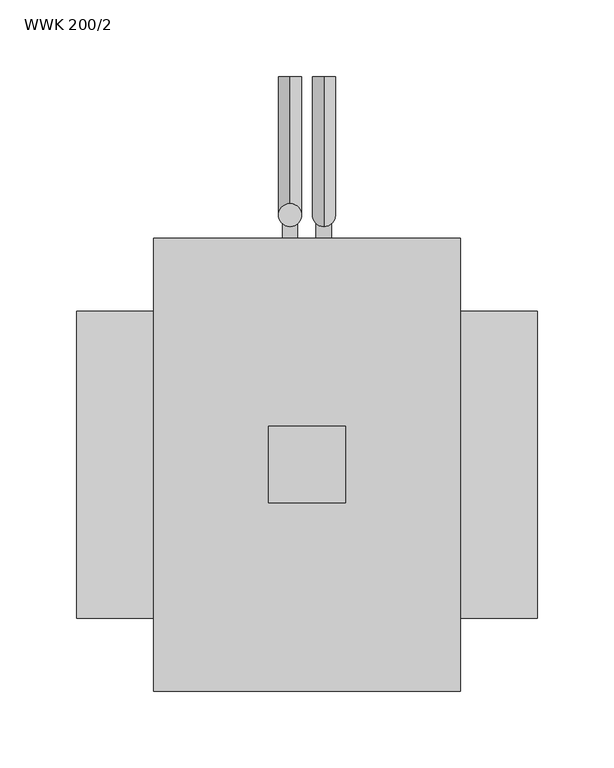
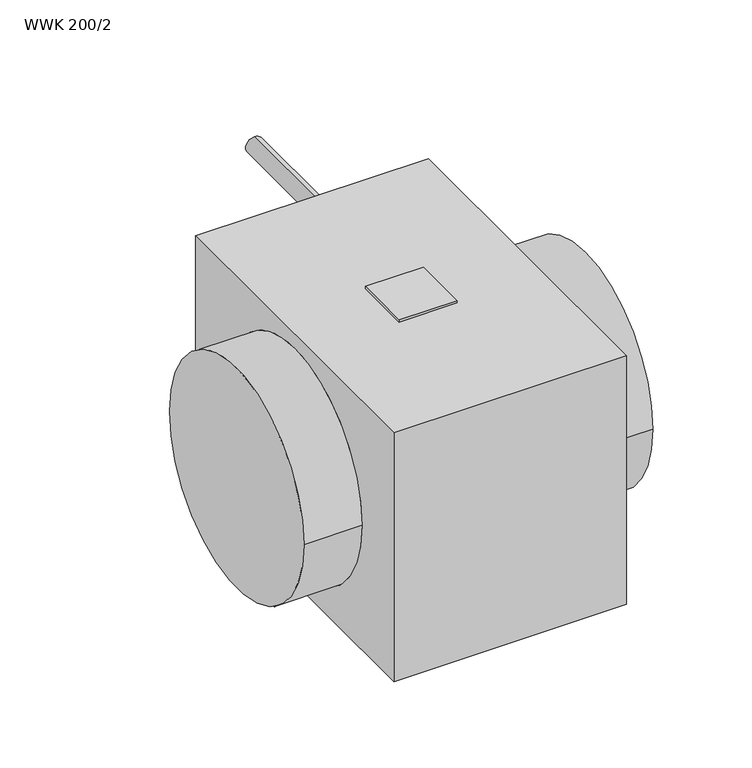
"""IFC4 building model written with IfcOpenShell, lengths in millimetres: proxy geometry, KORF_Нагреватель_Водяной_Круглый_WWK : WWK 200/2."""

import ifcopenshell
import ifcopenshell.guid

model = None  # the IFC model being written
_history = None  # IfcOwnerHistory: only IFC2X3 demands one
_inside = {}  # id of a spatial element -> (the spatial element, [elements in it])
_under = {}  # id of a project, library or spatial element -> (it, [spatial elements below it])
_declared = {}  # id of a project -> (the project, [libraries it declares])
_typed = {}  # id of a type object -> (the type object, [elements of that type])
_made_of = {}  # id of a material, layer set ... -> (it, [elements and type objects made of it])


def new_model(schema):
    """Start an empty IFC model of exactly this schema.

    Asked for "IFC4X3", IfcOpenShell would pick the latest addendum, in which some entities
    have other attributes; the version numbers below select the first issue.
    IFC2X3 requires an IfcOwnerHistory on every rooted entity: one is made here for all.
    """
    global model, _history
    if schema == "IFC4X3":
        model = ifcopenshell.file(schema_version=(4, 3, 0, 0))
    else:
        model = ifcopenshell.file(schema=schema)
    _inside.clear()
    _under.clear()
    _declared.clear()
    _typed.clear()
    _made_of.clear()
    _history = None
    if model.schema == "IFC2X3":
        org = make("IfcOrganization", Name="unknown")
        user = make(
            "IfcPersonAndOrganization",
            ThePerson=make("IfcPerson", FamilyName="unknown"),
            TheOrganization=org,
        )
        app = make(
            "IfcApplication",
            ApplicationDeveloper=org,
            Version="unknown",
            ApplicationFullName="unknown",
            ApplicationIdentifier="unknown",
        )
        _history = make(
            "IfcOwnerHistory",
            OwningUser=user,
            OwningApplication=app,
            ChangeAction="ADDED",
            CreationDate=0,
        )
    return model


def make(cls, **values):
    """One entity of the class cls with the attributes given. An attribute that is None is left unset."""
    return model.create_entity(
        cls, **{name: value for name, value in values.items() if value is not None}
    )


def rooted(cls, **values):
    """An entity with a GlobalId (a new one), such as an element, a storey or a relation."""
    return make(cls, GlobalId=ifcopenshell.guid.new(), OwnerHistory=_history, **values)


def si_unit(unit_type, name, prefix=None):
    """IfcSIUnit, for example si_unit("LENGTHUNIT", "METRE", prefix="MILLI")."""
    return make("IfcSIUnit", UnitType=unit_type, Prefix=prefix, Name=name)


def assignment(units):
    """IfcUnitAssignment: the units of a project."""
    return None if units is None else make("IfcUnitAssignment", Units=units)


def point(xyz):
    """IfcCartesianPoint."""
    return None if xyz is None else make("IfcCartesianPoint", Coordinates=xyz)


def direction(xyz):
    """IfcDirection."""
    return None if xyz is None else make("IfcDirection", DirectionRatios=xyz)


def frame(location, z_axis=None, x_axis=None):
    """IfcAxis2Placement3D, a coordinate frame: its origin and axes. An axis left out is left unset."""
    return make(
        "IfcAxis2Placement3D",
        Location=point(location),
        Axis=direction(z_axis),
        RefDirection=direction(x_axis),
    )


def frame_2d(location, x_axis=None):
    """IfcAxis2Placement2D, a coordinate frame in the plane: its origin and x axis."""
    return make(
        "IfcAxis2Placement2D", Location=point(location), RefDirection=direction(x_axis)
    )


def origin():
    """The frame at (0, 0, 0) with its axes left unset."""
    return frame((0.0, 0.0, 0.0))


def place(relative_to, where):
    """IfcLocalPlacement: puts the frame where relative to a parent placement (None: the world)."""
    return make(
        "IfcLocalPlacement", PlacementRelTo=relative_to, RelativePlacement=where
    )


def context(
    kind, dimensions, precision=None, world=None, true_north=None, identifier=None
):
    """IfcGeometricRepresentationContext, for example the 3D "Model" context."""
    return make(
        "IfcGeometricRepresentationContext",
        ContextIdentifier=identifier,
        ContextType=kind,
        CoordinateSpaceDimension=dimensions,
        Precision=precision,
        WorldCoordinateSystem=world,
        TrueNorth=true_north,
    )


def project(units=None, contexts=None):
    """IfcProject with its units and contexts."""
    return rooted(
        "IfcProject",
        Name="project",
        RepresentationContexts=contexts,
        UnitsInContext=assignment(units),
    )


def spatial(cls, under=None, at=None, **own):
    """A site, building, storey or space (cls), placed at a placement, below another one or the project."""
    s = rooted(cls, ObjectPlacement=at, **own)
    if under is not None:
        _under.setdefault(under.id(), (under, []))[1].append(s)
    return s


def polyline(points):
    """IfcPolyline through the points."""
    return make("IfcPolyline", Points=[point(p) for p in points])


def circle_curve(where, radius):
    """IfcCircle in the frame where."""
    return make("IfcCircle", Position=where, Radius=radius)


def ellipse_curve(where, semi_axis1, semi_axis2):
    """IfcEllipse in the frame where."""
    return make(
        "IfcEllipse", Position=where, SemiAxis1=semi_axis1, SemiAxis2=semi_axis2
    )


def trimmed(basis, trim1, trim2, sense, master):
    """IfcTrimmedCurve: the piece of a basis curve between two trims."""
    return make(
        "IfcTrimmedCurve",
        BasisCurve=basis,
        Trim1=trim1,
        Trim2=trim2,
        SenseAgreement=sense,
        MasterRepresentation=master,
    )


def segment(curve, same_sense, transition):
    """IfcCompositeCurveSegment."""
    return make(
        "IfcCompositeCurveSegment",
        Transition=transition,
        SameSense=same_sense,
        ParentCurve=curve,
    )


def composite_curve(segments, self_intersect=None):
    """IfcCompositeCurve: segments joined end to end."""
    return make("IfcCompositeCurve", Segments=segments, SelfIntersect=self_intersect)


def outline(outer, holes=None, kind="AREA"):
    """IfcArbitraryClosedProfileDef: a profile drawn as a closed curve; with holes, ...WithVoids."""
    if holes is None:
        return make("IfcArbitraryClosedProfileDef", ProfileType=kind, OuterCurve=outer)
    return make(
        "IfcArbitraryProfileDefWithVoids",
        ProfileType=kind,
        OuterCurve=outer,
        InnerCurves=holes,
    )


def extrude(swept, where, along, depth):
    """IfcExtrudedAreaSolid: the profile swept, set in the frame where, extruded along a direction by depth."""
    return make(
        "IfcExtrudedAreaSolid",
        SweptArea=swept,
        Position=where,
        ExtrudedDirection=direction(along),
        Depth=depth,
    )


def shape(context_of_items, identifier, shape_type, items):
    """IfcShapeRepresentation: the items that make up one representation, for example the "Body"."""
    return make(
        "IfcShapeRepresentation",
        ContextOfItems=context_of_items,
        RepresentationIdentifier=identifier,
        RepresentationType=shape_type,
        Items=items,
    )


def source(mapping_origin, context_of_items, identifier, shape_type, items):
    """IfcRepresentationMap: a shape defined once, which mapped items show again and again."""
    return make(
        "IfcRepresentationMap",
        MappingOrigin=mapping_origin,
        MappedRepresentation=shape(context_of_items, identifier, shape_type, items),
    )


def transform(
    local_origin,
    x_axis=None,
    y_axis=None,
    z_axis=None,
    scale=None,
    scale2=None,
    scale3=None,
    uniform=True,
):
    """IfcCartesianTransformationOperator3D, or its non-uniform kind. x_axis, y_axis, z_axis: its Axis1, 2, 3."""
    if uniform:
        return make(
            "IfcCartesianTransformationOperator3D",
            Axis1=direction(x_axis),
            Axis2=direction(y_axis),
            LocalOrigin=point(local_origin),
            Scale=scale,
            Axis3=direction(z_axis),
        )
    return make(
        "IfcCartesianTransformationOperator3DnonUniform",
        Axis1=direction(x_axis),
        Axis2=direction(y_axis),
        LocalOrigin=point(local_origin),
        Scale=scale,
        Axis3=direction(z_axis),
        Scale2=scale2,
        Scale3=scale3,
    )


def mapped(mapping_source, mapping_target):
    """IfcMappedItem: shows the shape of a source again, moved by a transform."""
    return make(
        "IfcMappedItem", MappingSource=mapping_source, MappingTarget=mapping_target
    )


def made_of(thing, what):
    """Note that an element or type object is made of a material, layer set ...; save() writes the relation."""
    if what is not None:
        _made_of.setdefault(what.id(), (what, []))[1].append(thing)
    return thing


def element(
    cls,
    number,
    at=None,
    inside=None,
    cuts=None,
    type_object=None,
    material=None,
    context=None,
    identifier="Body",
    shape_type=None,
    held_by="IfcProductDefinitionShape",
    body=None,
    shapes=None,
    **own,
):
    """One element of the class cls, such as IfcWall. Its Tag is "e" and its number.

    at: its placement. inside: the storey or other place that contains it. cuts: it is an
    opening in that element (IfcRelVoidsElement). A single representation is given by context,
    identifier, shape_type and body (its items); several are given by shapes. held_by: the class
    of the entity that holds the representations. save() writes the other relations.
    """
    e = rooted(cls, Tag="e%d" % number, ObjectPlacement=at, **own)
    if body is not None:
        shapes = [shape(context, identifier, shape_type, body)]
    if shapes is not None:
        e.Representation = make(held_by, Representations=shapes)
    if inside is not None:
        _inside.setdefault(inside.id(), (inside, []))[1].append(e)
    if cuts is not None:
        rooted(
            "IfcRelVoidsElement", RelatingBuildingElement=cuts, RelatedOpeningElement=e
        )
    if type_object is not None:
        _typed.setdefault(type_object.id(), (type_object, []))[1].append(e)
    return made_of(e, material)


def aggregate(whole, parts):
    """IfcRelAggregates: a whole, such as a stair, and the parts it consists of."""
    return rooted("IfcRelAggregates", RelatingObject=whole, RelatedObjects=parts)


def save(model, path):
    """Write the relations noted so far, then the file.

    IfcRelAggregates (storeys below a building ...), IfcRelContainedInSpatialStructure (elements
    in a storey), IfcRelDefinesByType, IfcRelAssociatesMaterial and IfcRelDeclares: one each for
    every whole, place, type object, material and project.
    """
    for whole, parts in _under.values():
        aggregate(whole, parts)
    for where, things in _inside.values():
        rooted(
            "IfcRelContainedInSpatialStructure",
            RelatedElements=things,
            RelatingStructure=where,
        )
    for kind, things in _typed.values():
        rooted("IfcRelDefinesByType", RelatedObjects=things, RelatingType=kind)
    for what, things in _made_of.values():
        rooted("IfcRelAssociatesMaterial", RelatedObjects=things, RelatingMaterial=what)
    for by, libraries in _declared.values():
        rooted("IfcRelDeclares", RelatingContext=by, RelatedDefinitions=libraries)
    model.write(path)


def plane_surface(at):
    """IfcPlane: the flat surface through the origin of the frame at, square to its z axis."""
    return make("IfcPlane", Position=at)


def cylinder_surface(at, radius):
    """IfcCylindricalSurface: all points at the distance radius from the z axis of the frame at."""
    return make("IfcCylindricalSurface", Position=at, Radius=radius)


def advanced_brep(points, edges, surfaces, faces):
    """IfcAdvancedBrep: a solid bounded by faces that lie on surfaces and meet in shared edges.

    An edge is (start, end): straight between two places in points (the first is 0);
    or (start, end, curve); or (start, end, curve, False) where it runs against its curve.
    A face is (place in surfaces, loops), or (place, loops, False) where it looks against
    its surface's normal. A loop lists edges by number (the first is 1), with a minus sign
    where the edge is run from its end to its start. The first loop is the outer one.
    """
    corners = [point(p) for p in points]
    vertices = [make("IfcVertexPoint", VertexGeometry=c) for c in corners]
    made = []
    for start, end, *more in edges:
        made.append(
            make(
                "IfcEdgeCurve",
                EdgeStart=vertices[start],
                EdgeEnd=vertices[end],
                EdgeGeometry=more[0] if more else make("IfcPolyline", Points=[corners[start], corners[end]]),
                SameSense=more[1] if len(more) > 1 else True,
            )
        )
    hull = []
    for where, loops, *sense in faces:
        bounds = []
        for j, loop in enumerate(loops):
            ring = [make("IfcOrientedEdge", EdgeElement=made[abs(k) - 1], Orientation=k > 0) for k in loop]
            bounds.append(
                make(
                    "IfcFaceOuterBound" if j == 0 else "IfcFaceBound",
                    Bound=make("IfcEdgeLoop", EdgeList=ring),
                    Orientation=True,
                )
            )
        hull.append(make("IfcAdvancedFace", Bounds=bounds, FaceSurface=surfaces[where], SameSense=sense[0] if sense else True))
    return make("IfcAdvancedBrep", Outer=make("IfcClosedShell", CfsFaces=hull))


def wwk_200_2_297e0e08(model_context):
    return source(origin(), model_context, "Body", "SolidModel", [
        extrude(outline(polyline([(175.0, 25.0), (175.0, -25.0), (125.0, -25.0), (125.0, 25.0), (175.0, 25.0)])), frame((0.0, 0.0, 113.0), z_axis=(0.0, 0.0, 1.0), x_axis=(1.0, 0.0, 0.0)), (0.0, 0.0, 1.0), 2.0),
        advanced_brep(
        [(300.0, -100.0, 0.0), (300.0, 100.0, 0.0), (0.0, -100.0, 0.0), (0.0, 100.0, 0.0), (250.0, -100.0, 0.0), (250.0, 100.0, 0.0), (50.0, 100.0, 0.0), (50.0, -100.0, 0.0), (250.0, -147.5, 113.0), (250.0, -147.5, -113.0), (250.0, 147.5, -113.0), (250.0, 147.5, 113.0), (50.0, -147.5, 113.0), (50.0, 147.5, 113.0), (50.0, 147.5, -113.0), (50.0, -147.5, -113.0), (53.0, 147.5, 110.0), (53.0, 147.5, -110.0), (247.0, 147.5, -110.0), (247.0, 147.5, 110.0), (53.0, 127.5, 110.0), (247.0, 127.5, 110.0), (247.0, 127.5, -110.0), (53.0, 127.5, -110.0)],
        [
            (0, 1, circle_curve(frame((300.0, 0.0, 0.0), z_axis=(1.0, 0.0, 0.0), x_axis=(0.0, 1.0, 0.0)), 100.0)),
            (1, 0, circle_curve(frame((300.0, 0.0, 0.0), z_axis=(1.0, 0.0, 0.0), x_axis=(0.0, 1.0, 0.0)), 100.0)),
            (2, 3, circle_curve(frame((0.0, 0.0, 0.0), z_axis=(-1.0, 0.0, 0.0), x_axis=(0.0, 1.0, 0.0)), 100.0)),
            (3, 2, circle_curve(frame((0.0, 0.0, 0.0), z_axis=(-1.0, 0.0, 0.0), x_axis=(0.0, 1.0, 0.0)), 100.0)),
            (0, 4),
            (4, 5, circle_curve(frame((250.0, 0.0, 0.0), z_axis=(1.0, 0.0, 0.0), x_axis=(0.0, 1.0, 0.0)), 100.0)),
            (5, 1),
            (3, 6),
            (6, 7, circle_curve(frame((50.0, 0.0, 0.0), z_axis=(-1.0, 0.0, 0.0), x_axis=(0.0, 1.0, 0.0)), 100.0)),
            (7, 2),
            (5, 4, circle_curve(frame((250.0, 0.0, 0.0), z_axis=(1.0, 0.0, 0.0), x_axis=(0.0, 1.0, 0.0)), 100.0)),
            (7, 6, circle_curve(frame((50.0, 0.0, 0.0), z_axis=(-1.0, 0.0, 0.0), x_axis=(0.0, 1.0, 0.0)), 100.0)),
            (8, 9),
            (9, 10),
            (10, 11),
            (11, 8),
            (12, 13),
            (13, 14),
            (14, 15),
            (15, 12),
            (8, 12),
            (15, 9),
            (14, 10),
            (13, 11),
            (16, 17),
            (17, 18),
            (18, 19),
            (19, 16),
            (20, 21),
            (21, 22),
            (22, 23),
            (23, 20),
            (23, 17),
            (16, 20),
            (22, 18),
            (21, 19),
        ],
        [
            plane_surface(frame((300.0, 100.0, 0.0), z_axis=(1.0, 0.0, 0.0), x_axis=(0.0, 0.0, 1.0))),
            plane_surface(frame((0.0, 100.0, 0.0), z_axis=(-1.0, 0.0, 0.0), x_axis=(0.0, 0.0, -1.0))),
            cylinder_surface(frame((0.0, 0.0, 0.0), z_axis=(1.0, 0.0, 0.0), x_axis=(0.0, 1.0, 0.0)), 100.0),
            plane_surface(frame((250.0, -147.5, 113.0), z_axis=(1.0, 0.0, 0.0), x_axis=(0.0, 0.0, -1.0))),
            plane_surface(frame((50.0, -147.5, 113.0), z_axis=(-1.0, 0.0, 0.0), x_axis=(0.0, 0.0, 1.0))),
            plane_surface(frame((250.0, -147.5, 113.0), z_axis=(0.0, -1.0, 0.0), x_axis=(-1.0, 0.0, 0.0))),
            plane_surface(frame((250.0, -147.5, -113.0), z_axis=(0.0, 0.0, -1.0), x_axis=(-1.0, 0.0, 0.0))),
            plane_surface(frame((250.0, 147.5, -113.0), z_axis=(0.0, 1.0, 0.0), x_axis=(-1.0, 0.0, 0.0))),
            plane_surface(frame((250.0, 147.5, 113.0), z_axis=(0.0, 0.0, 1.0), x_axis=(-1.0, 0.0, 0.0))),
            plane_surface(frame((53.0, 127.5, 110.0), z_axis=(0.0, 1.0, 0.0), x_axis=(0.0, 0.0, -1.0))),
            plane_surface(frame((53.0, 127.5, 110.0), z_axis=(1.0, 0.0, 0.0), x_axis=(0.0, 1.0, 0.0))),
            plane_surface(frame((53.0, 127.5, -110.0), z_axis=(0.0, 0.0, 1.0), x_axis=(0.0, 1.0, 0.0))),
            plane_surface(frame((247.0, 127.5, -110.0), z_axis=(-1.0, 0.0, 0.0), x_axis=(0.0, 1.0, 0.0))),
            plane_surface(frame((247.0, 127.5, 110.0), z_axis=(0.0, 0.0, -1.0), x_axis=(0.0, 1.0, 0.0))),
        ],
        [
            (0, [[1, 2]]),
            (1, [[3, 4]]),
            (2, [[-1, 5, 6, 7]]),
            (2, [[-4, 8, 9, 10]]),
            (2, [[-2, -7, 11, -5]]),
            (2, [[-3, -10, 12, -8]]),
            (3, [[13, 14, 15, 16], [-6, -11]]),
            (4, [[17, 18, 19, 20], [-9, -12]]),
            (5, [[-13, 21, -20, 22]]),
            (6, [[-14, -22, -19, 23]]),
            (7, [[-15, -23, -18, 24], [25, 26, 27, 28]]),
            (8, [[-16, -24, -17, -21]]),
            (9, [[29, 30, 31, 32]]),
            (10, [[-32, 33, -25, 34]]),
            (11, [[-31, 35, -26, -33]]),
            (12, [[-30, 36, -27, -35]]),
            (13, [[-29, -34, -28, -36]]),
        ],
    ),
        extrude(outline(composite_curve([segment(trimmed(circle_curve(frame_2d((93.0, 161.0)), 5.0), [point((93.0, 156.0))], [point((93.0, 166.0))], False, "CARTESIAN"), True, "CONTINUOUS"), segment(trimmed(circle_curve(frame_2d((93.0, 161.0)), 5.0), [point((93.0, 166.0))], [point((93.0, 156.0))], False, "CARTESIAN"), True, "CONTINUOUS")], self_intersect=False)), frame((0.0, 147.5, 0.0), z_axis=(0.0, 1.0, 0.0), x_axis=(0.0, 0.0, 1.0)), (0.0, 0.0, 1.0), 15.0),
        extrude(outline(composite_curve([segment(trimmed(circle_curve(frame_2d((37.2, 161.0)), 5.0), [point((37.2, 156.0))], [point((37.2, 166.0))], False, "CARTESIAN"), True, "CONTINUOUS"), segment(trimmed(circle_curve(frame_2d((37.2, 161.0)), 5.0), [point((37.2, 166.0))], [point((37.2, 156.0))], False, "CARTESIAN"), True, "CONTINUOUS")], self_intersect=False)), frame((0.0, 147.5, 0.0), z_axis=(0.0, 1.0, 0.0), x_axis=(0.0, 0.0, 1.0)), (0.0, 0.0, 1.0), 15.0),
        extrude(outline(composite_curve([segment(trimmed(circle_curve(frame_2d((-18.6, 161.0)), 5.0), [point((-18.6, 156.0))], [point((-18.6, 166.0))], False, "CARTESIAN"), True, "CONTINUOUS"), segment(trimmed(circle_curve(frame_2d((-18.6, 161.0)), 5.0), [point((-18.6, 166.0))], [point((-18.6, 156.0))], False, "CARTESIAN"), True, "CONTINUOUS")], self_intersect=False)), frame((0.0, 147.5, 0.0), z_axis=(0.0, 1.0, 0.0), x_axis=(0.0, 0.0, 1.0)), (0.0, 0.0, 1.0), 15.0),
        extrude(outline(composite_curve([segment(trimmed(circle_curve(frame_2d((18.6, 139.0)), 5.0), [point((18.6, 134.0))], [point((18.6, 144.0))], False, "CARTESIAN"), True, "CONTINUOUS"), segment(trimmed(circle_curve(frame_2d((18.6, 139.0)), 5.0), [point((18.6, 144.0))], [point((18.6, 134.0))], False, "CARTESIAN"), True, "CONTINUOUS")], self_intersect=False)), frame((0.0, 147.5, 0.0), z_axis=(0.0, 1.0, 0.0), x_axis=(0.0, 0.0, 1.0)), (0.0, 0.0, 1.0), 15.0),
        extrude(outline(composite_curve([segment(trimmed(circle_curve(frame_2d((-37.2, 139.0)), 5.0), [point((-37.2, 134.0))], [point((-37.2, 144.0))], False, "CARTESIAN"), True, "CONTINUOUS"), segment(trimmed(circle_curve(frame_2d((-37.2, 139.0)), 5.0), [point((-37.2, 144.0))], [point((-37.2, 134.0))], False, "CARTESIAN"), True, "CONTINUOUS")], self_intersect=False)), frame((0.0, 147.5, 0.0), z_axis=(0.0, 1.0, 0.0), x_axis=(0.0, 0.0, 1.0)), (0.0, 0.0, 1.0), 15.0),
        extrude(outline(composite_curve([segment(trimmed(circle_curve(frame_2d((-93.0, 139.0)), 5.0), [point((-93.0, 134.0))], [point((-93.0, 144.0))], False, "CARTESIAN"), True, "CONTINUOUS"), segment(trimmed(circle_curve(frame_2d((-93.0, 139.0)), 5.0), [point((-93.0, 144.0))], [point((-93.0, 134.0))], False, "CARTESIAN"), True, "CONTINUOUS")], self_intersect=False)), frame((0.0, 147.5, 0.0), z_axis=(0.0, 1.0, 0.0), x_axis=(0.0, 0.0, 1.0)), (0.0, 0.0, 1.0), 15.0),
        advanced_brep(
        [(139.0, 252.5, -85.5), (139.0, 252.5, -100.5), (139.0, 170.0, -85.5), (139.0, 155.0, -100.5), (139.0, 170.0, 74.4), (139.0, 155.0, 74.4)],
        [
            (0, 1, circle_curve(frame((139.0, 252.5, -93.0), z_axis=(0.0, 1.0, 0.0), x_axis=(0.0, 0.0, -1.0)), 7.5)),
            (1, 0, circle_curve(frame((139.0, 252.5, -93.0), z_axis=(0.0, 1.0, 0.0), x_axis=(0.0, 0.0, -1.0)), 7.5)),
            (0, 2),
            (2, 3, ellipse_curve(frame((139.0, 162.5, -93.0), z_axis=(0.0, 0.7071067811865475, -0.7071067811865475), x_axis=(0.0, 0.7071067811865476, 0.7071067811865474)), 10.6066017, 7.5)),
            (3, 1),
            (3, 2, ellipse_curve(frame((139.0, 162.5, -93.0), z_axis=(0.0, 0.7071067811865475, -0.7071067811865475), x_axis=(0.0, 0.7071067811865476, 0.7071067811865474)), 10.6066017, 7.5)),
            (4, 5, circle_curve(frame((139.0, 162.5, 74.4), z_axis=(0.0, 0.0, 1.0), x_axis=(0.0, -1.0, 0.0)), 7.5)),
            (5, 4, circle_curve(frame((139.0, 162.5, 74.4), z_axis=(0.0, 0.0, 1.0), x_axis=(0.0, -1.0, 0.0)), 7.5)),
            (2, 4),
            (5, 3),
        ],
        [
            plane_surface(frame((139.0, 252.5, -93.0), z_axis=(0.0, 1.0, 0.0), x_axis=(1.0, 0.0, 0.0))),
            cylinder_surface(frame((139.0, 252.5, -93.0), z_axis=(0.0, 1.0, 0.0), x_axis=(0.0, 0.0, -1.0)), 7.5),
            plane_surface(frame((139.0, 162.5, 74.4), z_axis=(0.0, 0.0, 1.0), x_axis=(1.0, 0.0, 0.0))),
            cylinder_surface(frame((139.0, 162.5, -93.0), z_axis=(0.0, 0.0, -1.0), x_axis=(0.0, -1.0, 0.0)), 7.5),
        ],
        [
            (0, [[1, 2]]),
            (1, [[-1, 3, 4, 5]]),
            (1, [[-2, -5, 6, -3]]),
            (2, [[7, 8]]),
            (3, [[-4, 9, -8, 10]]),
            (3, [[-6, -10, -7, -9]]),
        ],
    ),
        advanced_brep(
        [(161.0, 252.5, 85.5), (161.0, 252.5, 100.5), (161.0, 170.0, 85.5), (161.0, 155.0, 100.5), (161.0, 170.0, -74.4), (161.0, 155.0, -74.4)],
        [
            (0, 1, circle_curve(frame((161.0, 252.5, 93.0), z_axis=(0.0, 1.0, 0.0), x_axis=(0.0, 0.0, 1.0)), 7.5)),
            (1, 0, circle_curve(frame((161.0, 252.5, 93.0), z_axis=(0.0, 1.0, 0.0), x_axis=(0.0, 0.0, 1.0)), 7.5)),
            (0, 2),
            (2, 3, ellipse_curve(frame((161.0, 162.5, 93.0), z_axis=(0.0, 0.7071067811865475, 0.7071067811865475), x_axis=(0.0, 0.7071067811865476, -0.7071067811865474)), 10.6066017, 7.5)),
            (3, 1),
            (3, 2, ellipse_curve(frame((161.0, 162.5, 93.0), z_axis=(0.0, 0.7071067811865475, 0.7071067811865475), x_axis=(0.0, 0.7071067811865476, -0.7071067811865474)), 10.6066017, 7.5)),
            (4, 5, circle_curve(frame((161.0, 162.5, -74.4), z_axis=(0.0, 0.0, -1.0), x_axis=(0.0, -1.0, 0.0)), 7.5)),
            (5, 4, circle_curve(frame((161.0, 162.5, -74.4), z_axis=(0.0, 0.0, -1.0), x_axis=(0.0, -1.0, 0.0)), 7.5)),
            (2, 4),
            (5, 3),
        ],
        [
            plane_surface(frame((161.0, 252.5, 93.0), z_axis=(0.0, 1.0, 0.0), x_axis=(-1.0, 0.0, 0.0))),
            cylinder_surface(frame((161.0, 252.5, 93.0), z_axis=(0.0, 1.0, 0.0), x_axis=(0.0, 0.0, 1.0)), 7.5),
            plane_surface(frame((161.0, 162.5, -74.4), z_axis=(0.0, 0.0, -1.0), x_axis=(-1.0, 0.0, 0.0))),
            cylinder_surface(frame((161.0, 162.5, 93.0), z_axis=(0.0, 0.0, 1.0), x_axis=(0.0, -1.0, 0.0)), 7.5),
        ],
        [
            (0, [[1, 2]]),
            (1, [[-1, 3, 4, 5]]),
            (1, [[-2, -5, 6, -3]]),
            (2, [[7, 8]]),
            (3, [[-4, 9, -8, 10]]),
            (3, [[-6, -10, -7, -9]]),
        ],
    ),
    ])


if __name__ == "__main__":
    model = new_model("IFC4")
    model_context = context("Model", 3, world=origin())
    ifc_project = project(units=[si_unit("LENGTHUNIT", "METRE", prefix="MILLI")], contexts=[model_context])
    site = spatial("IfcSite", under=ifc_project)
    building = spatial("IfcBuilding", under=site)
    placement = place(None, origin())
    wwk_200_2_shape = wwk_200_2_297e0e08(model_context)
    element("IfcBuildingElementProxy", 1, Name="KORF_Нагреватель_Водяной_Круглый_WWK : WWK 200/2", ObjectType="KORF_Нагреватель_Водяной_Круглый_WWK : WWK 200/2", at=placement, inside=building, context=model_context, shape_type="MappedRepresentation", body=[
        mapped(wwk_200_2_shape, transform((0.0, 0.0, 0.0), x_axis=(1.0, 0.0, 0.0), y_axis=(0.0, 1.0, 0.0), z_axis=(0.0, 0.0, 1.0))),
    ])
    save(model, "model.ifc")
